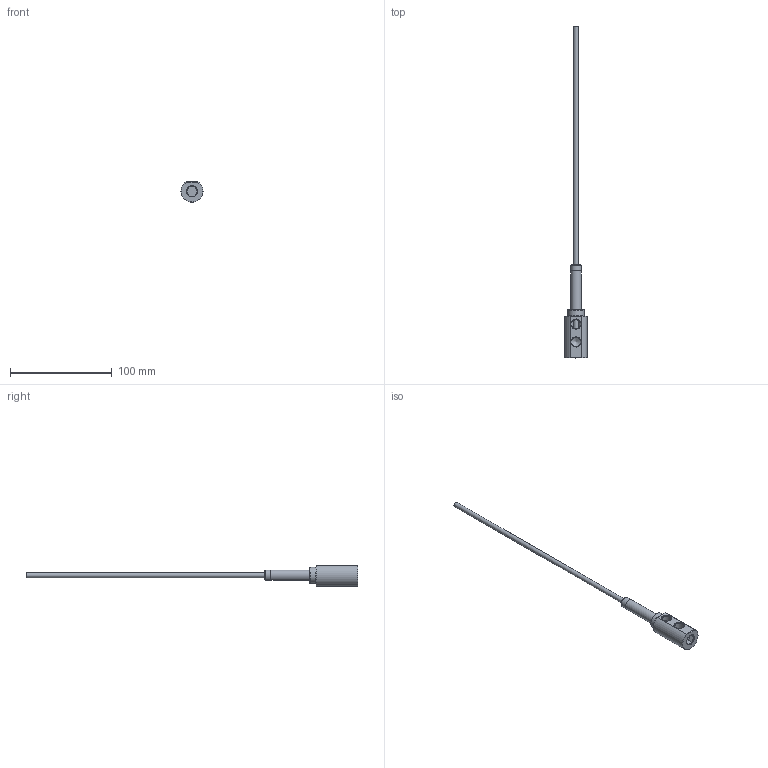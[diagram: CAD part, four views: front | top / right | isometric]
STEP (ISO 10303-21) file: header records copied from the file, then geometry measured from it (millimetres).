
FILE_DESCRIPTION(/* description */ (''),/* implementation_level */ '2;1');
FILE_NAME(/* name */ 'C:/Users/drich/Desktop/E186N v1.step',/* time_stamp */ '2020-01-15T19:31:16-06:00',/* author */ (''),/* organization */ (''),/* preprocessor_version */ 'ST-DEVELOPER v18',/* originating_system */ 'Autodesk Translation Framework v8.12.0.6',/* authorisation */ '');
FILE_SCHEMA (('AUTOMOTIVE_DESIGN { 1 0 10303 214 3 1 1 }'));
Length unit declared in the file: inch
Products named in the file (4): E186N; E186H; SSPN18-2; HF187T-12
Assembly tree (3 placements, depth 2):
  E186N
    E186H
    SSPN18-2
    HF187T-12
Bounding box: 21.84 x 327.02 x 20.37 mm (x, y, z)
Volume: 16382.4 mm3; surface area: 16640.4 mm2
Topology: 3 solids, 3 shells, 66 faces, 158 edges, 105 vertices
Faces by surface type: plane 22, cylinder 21, cone 18, torus 5
Full cylindrical faces by diameter (mm): 4.242 x1, 4.75 x1, 5.474 x1, 6.243 x1, 6.401 x1, 6.833 x1, 8.707 x3, 10.262 x2, 10.312 x1, 11.176 x1, 15.875 x1
Entity records: 2171 total; most frequent: CARTESIAN_POINT 438, DIRECTION 382, ORIENTED_EDGE 314, AXIS2_PLACEMENT_3D 168, EDGE_CURVE 157, VERTEX_POINT 105, CIRCLE 93, EDGE_LOOP 82
